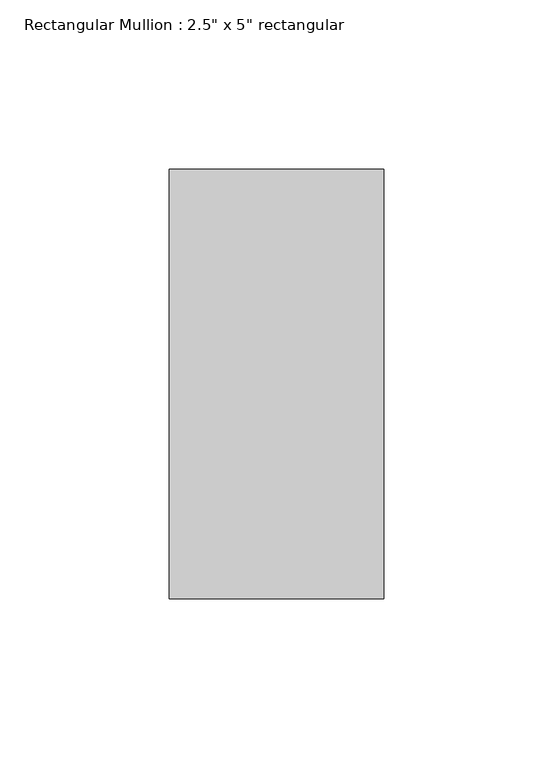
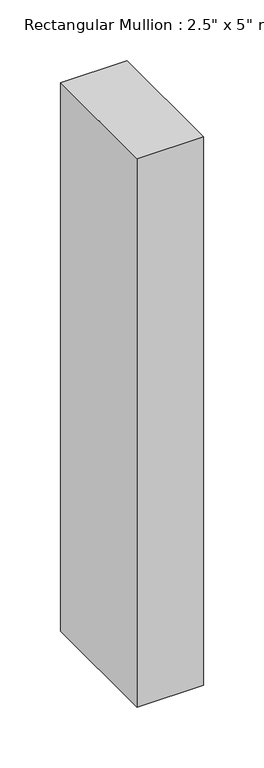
"""IFC4 building model written with IfcOpenShell, lengths in millimetres: member geometry."""

import ifcopenshell
import ifcopenshell.guid

model = None  # the IFC model being written
_history = None  # IfcOwnerHistory: only IFC2X3 demands one
_inside = {}  # id of a spatial element -> (the spatial element, [elements in it])
_under = {}  # id of a project, library or spatial element -> (it, [spatial elements below it])
_declared = {}  # id of a project -> (the project, [libraries it declares])
_typed = {}  # id of a type object -> (the type object, [elements of that type])
_made_of = {}  # id of a material, layer set ... -> (it, [elements and type objects made of it])


def new_model(schema):
    """Start an empty IFC model of exactly this schema.

    Asked for "IFC4X3", IfcOpenShell would pick the latest addendum, in which some entities
    have other attributes; the version numbers below select the first issue.
    IFC2X3 requires an IfcOwnerHistory on every rooted entity: one is made here for all.
    """
    global model, _history
    if schema == "IFC4X3":
        model = ifcopenshell.file(schema_version=(4, 3, 0, 0))
    else:
        model = ifcopenshell.file(schema=schema)
    _inside.clear()
    _under.clear()
    _declared.clear()
    _typed.clear()
    _made_of.clear()
    _history = None
    if model.schema == "IFC2X3":
        org = make("IfcOrganization", Name="unknown")
        user = make(
            "IfcPersonAndOrganization",
            ThePerson=make("IfcPerson", FamilyName="unknown"),
            TheOrganization=org,
        )
        app = make(
            "IfcApplication",
            ApplicationDeveloper=org,
            Version="unknown",
            ApplicationFullName="unknown",
            ApplicationIdentifier="unknown",
        )
        _history = make(
            "IfcOwnerHistory",
            OwningUser=user,
            OwningApplication=app,
            ChangeAction="ADDED",
            CreationDate=0,
        )
    return model


def make(cls, **values):
    """One entity of the class cls with the attributes given. An attribute that is None is left unset."""
    return model.create_entity(
        cls, **{name: value for name, value in values.items() if value is not None}
    )


def rooted(cls, **values):
    """An entity with a GlobalId (a new one), such as an element, a storey or a relation."""
    return make(cls, GlobalId=ifcopenshell.guid.new(), OwnerHistory=_history, **values)


def si_unit(unit_type, name, prefix=None):
    """IfcSIUnit, for example si_unit("LENGTHUNIT", "METRE", prefix="MILLI")."""
    return make("IfcSIUnit", UnitType=unit_type, Prefix=prefix, Name=name)


def assignment(units):
    """IfcUnitAssignment: the units of a project."""
    return None if units is None else make("IfcUnitAssignment", Units=units)


def point(xyz):
    """IfcCartesianPoint."""
    return None if xyz is None else make("IfcCartesianPoint", Coordinates=xyz)


def direction(xyz):
    """IfcDirection."""
    return None if xyz is None else make("IfcDirection", DirectionRatios=xyz)


def frame(location, z_axis=None, x_axis=None):
    """IfcAxis2Placement3D, a coordinate frame: its origin and axes. An axis left out is left unset."""
    return make(
        "IfcAxis2Placement3D",
        Location=point(location),
        Axis=direction(z_axis),
        RefDirection=direction(x_axis),
    )


def origin():
    """The frame at (0, 0, 0) with its axes left unset."""
    return frame((0.0, 0.0, 0.0))


def place(relative_to, where):
    """IfcLocalPlacement: puts the frame where relative to a parent placement (None: the world)."""
    return make(
        "IfcLocalPlacement", PlacementRelTo=relative_to, RelativePlacement=where
    )


def context(
    kind, dimensions, precision=None, world=None, true_north=None, identifier=None
):
    """IfcGeometricRepresentationContext, for example the 3D "Model" context."""
    return make(
        "IfcGeometricRepresentationContext",
        ContextIdentifier=identifier,
        ContextType=kind,
        CoordinateSpaceDimension=dimensions,
        Precision=precision,
        WorldCoordinateSystem=world,
        TrueNorth=true_north,
    )


def project(units=None, contexts=None):
    """IfcProject with its units and contexts."""
    return rooted(
        "IfcProject",
        Name="project",
        RepresentationContexts=contexts,
        UnitsInContext=assignment(units),
    )


def spatial(cls, under=None, at=None, **own):
    """A site, building, storey or space (cls), placed at a placement, below another one or the project."""
    s = rooted(cls, ObjectPlacement=at, **own)
    if under is not None:
        _under.setdefault(under.id(), (under, []))[1].append(s)
    return s


def polyline(points):
    """IfcPolyline through the points."""
    return make("IfcPolyline", Points=[point(p) for p in points])


def outline(outer, holes=None, kind="AREA"):
    """IfcArbitraryClosedProfileDef: a profile drawn as a closed curve; with holes, ...WithVoids."""
    if holes is None:
        return make("IfcArbitraryClosedProfileDef", ProfileType=kind, OuterCurve=outer)
    return make(
        "IfcArbitraryProfileDefWithVoids",
        ProfileType=kind,
        OuterCurve=outer,
        InnerCurves=holes,
    )


def extrude(swept, where, along, depth):
    """IfcExtrudedAreaSolid: the profile swept, set in the frame where, extruded along a direction by depth."""
    return make(
        "IfcExtrudedAreaSolid",
        SweptArea=swept,
        Position=where,
        ExtrudedDirection=direction(along),
        Depth=depth,
    )


def shape(context_of_items, identifier, shape_type, items):
    """IfcShapeRepresentation: the items that make up one representation, for example the "Body"."""
    return make(
        "IfcShapeRepresentation",
        ContextOfItems=context_of_items,
        RepresentationIdentifier=identifier,
        RepresentationType=shape_type,
        Items=items,
    )


def source(mapping_origin, context_of_items, identifier, shape_type, items):
    """IfcRepresentationMap: a shape defined once, which mapped items show again and again."""
    return make(
        "IfcRepresentationMap",
        MappingOrigin=mapping_origin,
        MappedRepresentation=shape(context_of_items, identifier, shape_type, items),
    )


def transform(
    local_origin,
    x_axis=None,
    y_axis=None,
    z_axis=None,
    scale=None,
    scale2=None,
    scale3=None,
    uniform=True,
):
    """IfcCartesianTransformationOperator3D, or its non-uniform kind. x_axis, y_axis, z_axis: its Axis1, 2, 3."""
    if uniform:
        return make(
            "IfcCartesianTransformationOperator3D",
            Axis1=direction(x_axis),
            Axis2=direction(y_axis),
            LocalOrigin=point(local_origin),
            Scale=scale,
            Axis3=direction(z_axis),
        )
    return make(
        "IfcCartesianTransformationOperator3DnonUniform",
        Axis1=direction(x_axis),
        Axis2=direction(y_axis),
        LocalOrigin=point(local_origin),
        Scale=scale,
        Axis3=direction(z_axis),
        Scale2=scale2,
        Scale3=scale3,
    )


def mapped(mapping_source, mapping_target):
    """IfcMappedItem: shows the shape of a source again, moved by a transform."""
    return make(
        "IfcMappedItem", MappingSource=mapping_source, MappingTarget=mapping_target
    )


def made_of(thing, what):
    """Note that an element or type object is made of a material, layer set ...; save() writes the relation."""
    if what is not None:
        _made_of.setdefault(what.id(), (what, []))[1].append(thing)
    return thing


def element(
    cls,
    number,
    at=None,
    inside=None,
    cuts=None,
    type_object=None,
    material=None,
    context=None,
    identifier="Body",
    shape_type=None,
    held_by="IfcProductDefinitionShape",
    body=None,
    shapes=None,
    **own,
):
    """One element of the class cls, such as IfcWall. Its Tag is "e" and its number.

    at: its placement. inside: the storey or other place that contains it. cuts: it is an
    opening in that element (IfcRelVoidsElement). A single representation is given by context,
    identifier, shape_type and body (its items); several are given by shapes. held_by: the class
    of the entity that holds the representations. save() writes the other relations.
    """
    e = rooted(cls, Tag="e%d" % number, ObjectPlacement=at, **own)
    if body is not None:
        shapes = [shape(context, identifier, shape_type, body)]
    if shapes is not None:
        e.Representation = make(held_by, Representations=shapes)
    if inside is not None:
        _inside.setdefault(inside.id(), (inside, []))[1].append(e)
    if cuts is not None:
        rooted(
            "IfcRelVoidsElement", RelatingBuildingElement=cuts, RelatedOpeningElement=e
        )
    if type_object is not None:
        _typed.setdefault(type_object.id(), (type_object, []))[1].append(e)
    return made_of(e, material)


def aggregate(whole, parts):
    """IfcRelAggregates: a whole, such as a stair, and the parts it consists of."""
    return rooted("IfcRelAggregates", RelatingObject=whole, RelatedObjects=parts)


def save(model, path):
    """Write the relations noted so far, then the file.

    IfcRelAggregates (storeys below a building ...), IfcRelContainedInSpatialStructure (elements
    in a storey), IfcRelDefinesByType, IfcRelAssociatesMaterial and IfcRelDeclares: one each for
    every whole, place, type object, material and project.
    """
    for whole, parts in _under.values():
        aggregate(whole, parts)
    for where, things in _inside.values():
        rooted(
            "IfcRelContainedInSpatialStructure",
            RelatedElements=things,
            RelatingStructure=where,
        )
    for kind, things in _typed.values():
        rooted("IfcRelDefinesByType", RelatedObjects=things, RelatingType=kind)
    for what, things in _made_of.values():
        rooted("IfcRelAssociatesMaterial", RelatedObjects=things, RelatingMaterial=what)
    for by, libraries in _declared.values():
        rooted("IfcRelDeclares", RelatingContext=by, RelatedDefinitions=libraries)
    model.write(path)


def member_15c85785(model_context):
    return source(origin(), model_context, "Body", "SweptSolid", [
        extrude(outline(polyline([(0.0, 63.5), (0.0, -63.5), (-63.5, -63.5), (-63.5, 63.5), (0.0, 63.5)])), frame((0.0, 0.0, -553.3254392), z_axis=(0.0, 0.0, 1.0), x_axis=(1.0, 0.0, 0.0)), (0.0, 0.0, 1.0), 553.3254392),
    ])


if __name__ == "__main__":
    model = new_model("IFC4")
    model_context = context("Model", 3, world=origin())
    ifc_project = project(units=[si_unit("LENGTHUNIT", "METRE", prefix="MILLI")], contexts=[model_context])
    site = spatial("IfcSite", under=ifc_project)
    building = spatial("IfcBuilding", under=site)
    placement = place(None, origin())
    member_shape = member_15c85785(model_context)
    element("IfcMember", 1, ObjectType="Rectangular Mullion : 2.5\" x 5\" rectangular", at=placement, inside=building, context=model_context, shape_type="MappedRepresentation", body=[
        mapped(member_shape, transform((0.0, 0.0, 0.0), x_axis=(1.0, 0.0, 0.0), y_axis=(0.0, 1.0, 0.0), z_axis=(0.0, 0.0, 1.0))),
    ])
    save(model, "model.ifc")
